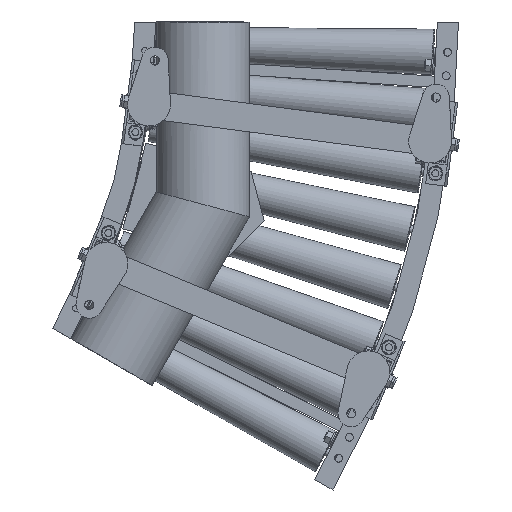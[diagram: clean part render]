
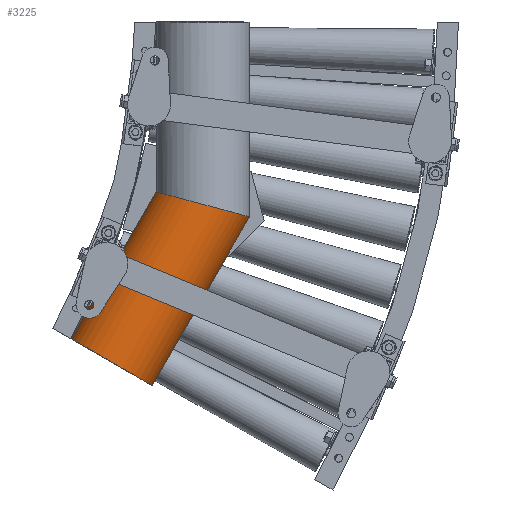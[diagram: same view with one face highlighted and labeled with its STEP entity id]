
A CAD part, front view. The second image highlights one B-rep face of the part: STEP entity #3225.
In plain terms, the highlighted cylindrical face has radius 67.024 mm (diameter 134.048 mm), a partial arc.
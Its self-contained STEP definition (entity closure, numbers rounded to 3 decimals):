
#3225=ADVANCED_FACE('',(#24283),#24282,.T.);
#24282=CYLINDRICAL_SURFACE('',#35195,67.024);
#24283=FACE_OUTER_BOUND('',#35196,.T.);
#35192=CARTESIAN_POINT('',(975.883,-156.676,-243.722));
#35193=DIRECTION('',(0.5,0.,0.866));
#35194=DIRECTION('',(0.866,0.,-0.5));
#35195=AXIS2_PLACEMENT_3D('',#35192,#35193,#35194);
#35196=EDGE_LOOP('',(#45171,#45172,#45173,#45174));
#45171=ORIENTED_EDGE('',*,*,#50176,.T.);
#45172=ORIENTED_EDGE('',*,*,#50177,.T.);
#45173=ORIENTED_EDGE('',*,*,#50178,.T.);
#45174=ORIENTED_EDGE('',*,*,#50171,.F.);
#50171=EDGE_CURVE('',#83218,#83225,#83226,.T.);
#50176=EDGE_CURVE('',#83218,#83258,#83259,.T.);
#50177=EDGE_CURVE('',#83258,#83265,#83266,.T.);
#50178=EDGE_CURVE('',#83265,#83225,#83272,.T.);
#83218=VERTEX_POINT('',#104367);
#83225=VERTEX_POINT('',#104371);
#83226=LINE('',#104372,#104373);
#83258=VERTEX_POINT('',#104389);
#83259=(BOUNDED_CURVE() B_SPLINE_CURVE(2,(#104390,#104391,#104392,#104393,#104394),.UNSPECIFIED.,.F.,.F.) B_SPLINE_CURVE_WITH_KNOTS((3,2,3),(0.147,1.571,2.994),.UNSPECIFIED.) CURVE() GEOMETRIC_REPRESENTATION_ITEM() RATIONAL_B_SPLINE_CURVE((1.,0.757,1.,0.757,1.)) REPRESENTATION_ITEM('') );
#83265=VERTEX_POINT('',#104395);
#83266=LINE('',#104396,#104397);
#83272=CIRCLE('',#104402,67.024);
#104367=CARTESIAN_POINT('',(1033.3,-166.5,-276.872));
#104371=CARTESIAN_POINT('',(894.864,-166.5,-516.65));
#104372=CARTESIAN_POINT('',(1033.3,-166.5,-276.872));
#104373=VECTOR('',#104374,276.872);
#104374=DIRECTION('',(-0.5,0.,-0.866));
#104389=CARTESIAN_POINT('',(900.7,-166.5,-241.342));
#104390=CARTESIAN_POINT('',(1033.3,-166.5,-276.872));
#104391=CARTESIAN_POINT('',(1024.825,-223.7,-274.601));
#104392=CARTESIAN_POINT('',(967.,-223.7,-259.107));
#104393=CARTESIAN_POINT('',(909.175,-223.7,-243.613));
#104394=CARTESIAN_POINT('',(900.7,-166.5,-241.342));
#104395=CARTESIAN_POINT('',(780.029,-166.5,-450.35));
#104396=CARTESIAN_POINT('',(900.7,-166.5,-241.342));
#104397=VECTOR('',#104398,241.342);
#104398=DIRECTION('',(-0.5,0.,-0.866));
#104399=CARTESIAN_POINT('',(837.447,-156.676,-483.5));
#104400=DIRECTION('',(0.5,0.,0.866));
#104401=DIRECTION('',(-0.866,0.,0.5));
#104402=AXIS2_PLACEMENT_3D('',#104399,#104400,#104401);
